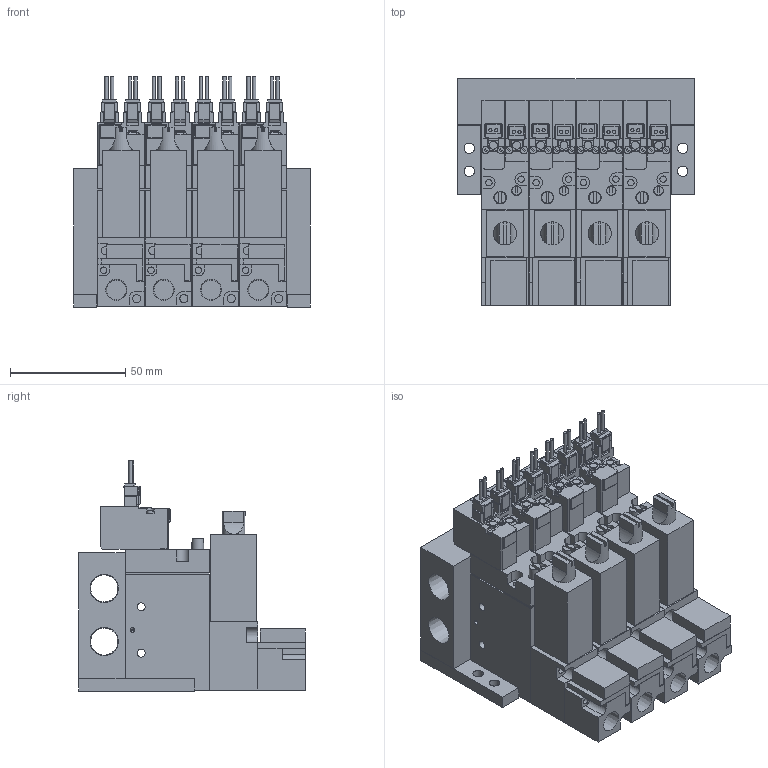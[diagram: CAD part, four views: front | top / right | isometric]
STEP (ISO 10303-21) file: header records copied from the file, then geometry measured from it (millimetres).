
FILE_DESCRIPTION(('STEP AP203'),'1');
FILE_NAME('BMPV32M2NZ25AL404.stp','2025-06-17T01:14:25',(' '),(' '),'Spatial InterOp 3D',' ',' ');
FILE_SCHEMA(('CONFIG_CONTROL_DESIGN'));
Length unit declared in the file: millimetre
Products named in the file (52): BMPV32M2NZ25AL404; S____; ___ ___2; ___-2(Rc); Filter Assy; __; _____; MB BRACKET; MB04; ___; upper plate-A; ______; ____; VACUUM VALVE FUNCTION MPV42-A; UV280-4E
Assembly tree (51 placements, depth 2):
  BMPV32M2NZ25AL404
    S____
    ___ ___2
    ___-2(Rc)
    Filter Assy
    __
    _____
    S____
    ___ ___2
    ___-2(Rc)
    Filter Assy
    __
    _____
    S____
    ___ ___2
    ___-2(Rc)
    Filter Assy
    __
    _____
    MB BRACKET
    MB BRACKET
    MB04
    S____
    ___ ___2
    ___-2(Rc)
    Filter Assy
    __
    _____
    ___
    upper plate-A
    ______
    ____
    VACUUM VALVE FUNCTION MPV42-A
    ___
    upper plate-A
    ______
    ____
    VACUUM VALVE FUNCTION MPV42-A
    ___
    upper plate-A
    ______
    ____
    VACUUM VALVE FUNCTION MPV42-A
    ___
    upper plate-A
    ______
    ____
    VACUUM VALVE FUNCTION MPV42-A
    UV280-4E
    UV280-4E
    UV280-4E
    UV280-4E
Bounding box: 102.5 x 98 x 99.75 mm (x, y, z)
Volume: 437549.6 mm3; surface area: 149921.5 mm2
Topology: 51 solids, 51 shells, 1483 faces, 3884 edges, 2572 vertices
Faces by surface type: plane 1197, cylinder 254, cone 32
Full cylindrical faces by diameter (mm): 1.4 x16, 1.8 x8, 2 x8, 2.5 x12, 2.8 x16, 3 x16, 3.5 x44, 4 x4, 4.2 x4, 4.5 x4, 5 x4, 5.5 x4, 6.5 x6, 8.522 x4, 11.776 x2
Entity records: 46874 total; most frequent: CARTESIAN_POINT 7995, DIRECTION 7326, ORIENTED_EDGE 7264, EDGE_CURVE 3632, LINE 2976, VECTOR 2976, VERTEX_POINT 2532, AXIS2_PLACEMENT_3D 2175
